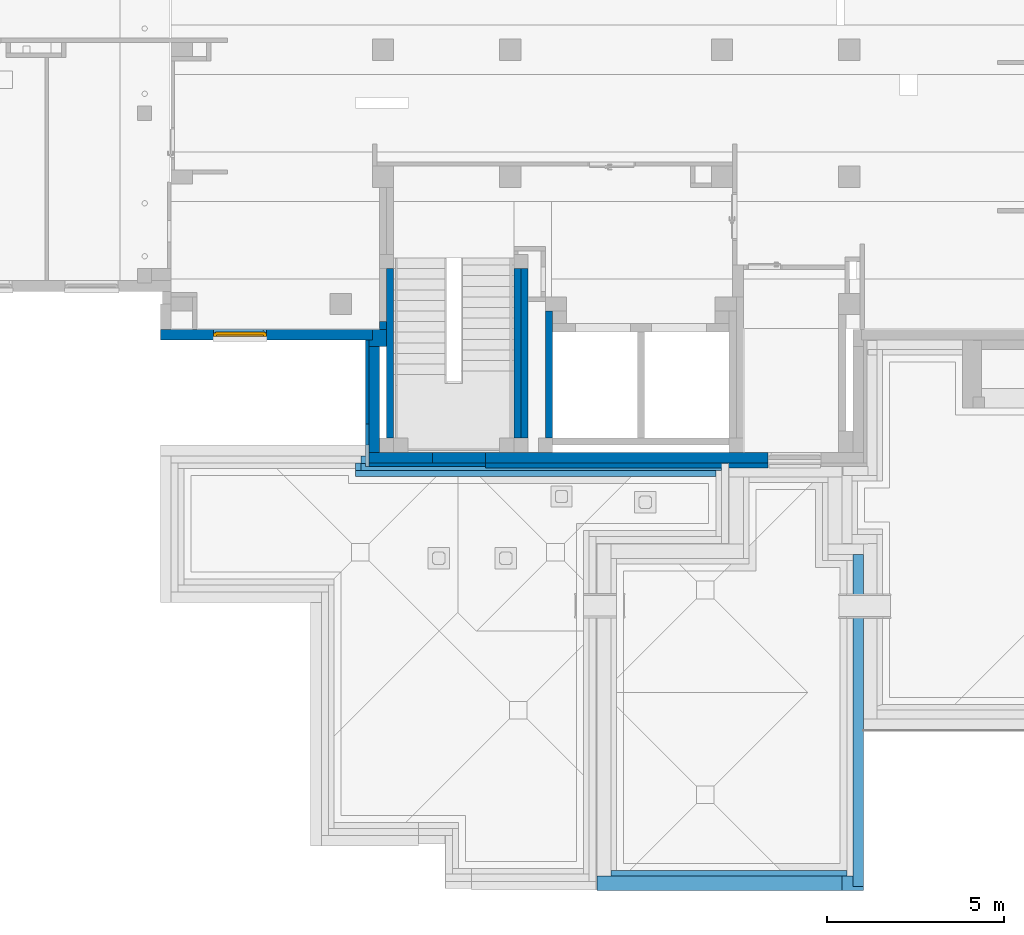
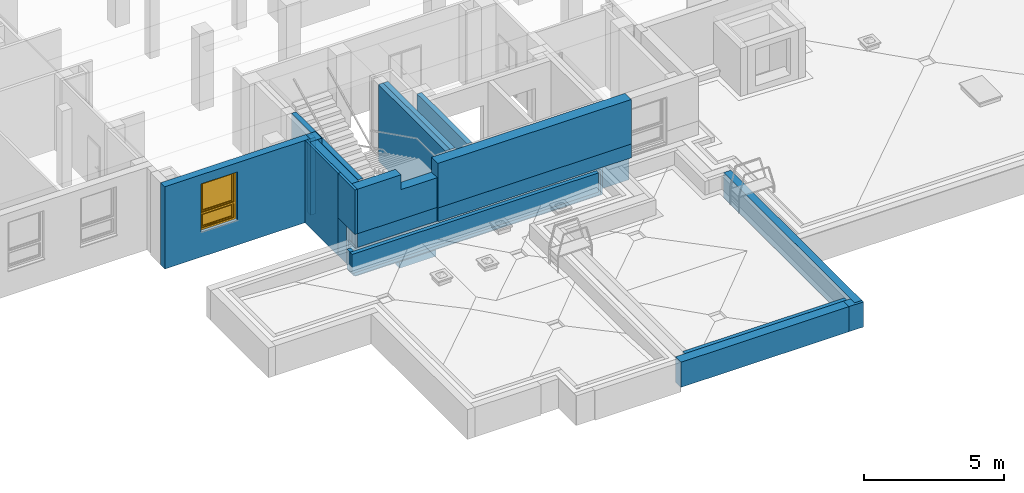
# One storey, part 20 of 50: 22 walls, 1 window, 3 openings.
"""IFC4 building model written with IfcOpenShell, lengths in metres."""

from ifc_helpers import new_model, entity, si_unit, converted_unit, derived_unit, frame, frame_2d, origin, origin_with_axes, place, context, subcontext, project, spatial, polyline, rectangle, outline, extrude, clip, bounded_halfspace, closed_shell, open_shell, surface_model, source, transform, mapped, material, layer, layer_set, layer_usage, element, fill, save


model = new_model("IFC4")

# Units and contexts
model_context = context("Model", 3, precision=1e-05, world=origin())
body_context = subcontext(model_context, "Body", "Model", "MODEL_VIEW")
ifc_project = project(units=[si_unit("LENGTHUNIT", "METRE"), si_unit("AREAUNIT", "SQUARE_METRE"), si_unit("VOLUMEUNIT", "CUBIC_METRE"), si_unit("MASSUNIT", "GRAM", prefix="KILO"), converted_unit("PLANEANGLEUNIT", "DEGREE", entity("IfcPlaneAngleMeasure", 0.0174532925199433), si_unit("PLANEANGLEUNIT", "RADIAN"), dimensions=[0, 0, 0, 0, 0, 0, 0]), derived_unit("THERMALTRANSMITTANCEUNIT", [(si_unit("POWERUNIT", "WATT"), 1), (si_unit("THERMODYNAMICTEMPERATUREUNIT", "KELVIN"), -1), (si_unit("LENGTHUNIT", "METRE"), -2)]), derived_unit("VOLUMETRICFLOWRATEUNIT", [(si_unit("LENGTHUNIT", "METRE"), 3), (converted_unit("TIMEUNIT", "hour", entity("IfcTimeMeasure", 3600.0), si_unit("TIMEUNIT", "SECOND"), dimensions=[0, 0, 1, 0, 0, 0, 0]), -1), (si_unit("LENGTHUNIT", "METRE"), -1)])], contexts=[model_context])

# Site, building, storey
site_placement = place(None, origin())
site = spatial("IfcSite", under=ifc_project, at=site_placement, Name="3. ASŘ", CompositionType="ELEMENT")
building_placement = place(site_placement, origin())
building = spatial("IfcBuilding", under=site, at=building_placement, Name="Pavilon C", CompositionType="ELEMENT")
storey_placement = place(building_placement, frame((0.0, 0.0, 3.6)))
storey = spatial("IfcBuildingStorey", under=building, at=storey_placement, Name="Půdorys 2.NP", CompositionType="ELEMENT", Elevation=3.6)

# Wall, opening, window
ifc_material_1 = material(Name="ZELEZOBETONOVÁ KCE")
ifc_layer_1 = layer(ifc_material_1, 0.3)
ifc_layer_set_1 = layer_set([ifc_layer_1])
ifc_layer_usage_1 = layer_usage(ifc_layer_set_1, "AXIS2", "POSITIVE", 0.0)
wall_1_placement = place(storey_placement, frame((24.45, -1.02, -0.1)))
wall_1 = element("IfcWall", 1, at=wall_1_placement, inside=storey, material=ifc_layer_usage_1, Name="ZELEZOBETONOVÁ KCE", context=body_context, shape_type="SweptSolid", body=[
    extrude(rectangle(XDim=6.0, YDim=0.3, at=frame_2d((3.0, 0.15), x_axis=(1.0, 0.0))), origin_with_axes(), (0.0, 0.0, 1.0), 3.6),
])
opening_1_placement = place(wall_1_placement, frame((1.5, 0.0, 1.1), z_axis=(0.0, 1.0, 0.0), x_axis=(0.0, 0.0, 1.0)))
opening_1 = element("IfcOpeningElement", 2, at=opening_1_placement, cuts=wall_1, Name="Okenní otvor", ObjectType="Opening", context=body_context, shape_type="SweptSolid", body=[
    extrude(outline(polyline([(0.0, 1.5), (2.1, 1.5), (2.1, 0.0), (0.0, 0.0), (0.0, 1.5)])), origin_with_axes(), (0.0, 0.0, 1.0), 0.3),
])
shared_shape = source(origin_with_axes(), body_context, "Body", "SurfaceModel", [
    surface_model("IfcShellBasedSurfaceModel", [(0.0, 0.182, 2.1), (0.0, 0.182, -5.63337527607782e-18), (0.08, 0.182, -5.63337527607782e-18), (0.08, 0.182, 2.1), (0.0, 0.0899999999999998, 5.63337527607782e-18), (0.0, 0.0900000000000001, 2.1), (0.08, 0.0900000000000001, 2.1), (0.08, 0.0899999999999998, 5.63337527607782e-18)], [closed_shell([[[0, 1, 2, 3]], [[4, 5, 6, 7]], [[1, 0, 5, 4]], [[2, 1, 4, 7]], [[3, 2, 7, 6]], [[0, 3, 6, 5]]], orient=[[False], [False], [False], [False], [False], [False]])]),
    surface_model("IfcShellBasedSurfaceModel", [(1.42, 0.182, 2.1), (1.42, 0.182, -5.63337527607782e-18), (1.5, 0.182, -5.63337527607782e-18), (1.5, 0.182, 2.1), (1.42, 0.0899999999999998, 5.63337527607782e-18), (1.42, 0.0900000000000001, 2.1), (1.5, 0.0900000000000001, 2.1), (1.5, 0.0899999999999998, 5.63337527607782e-18)], [closed_shell([[[0, 1, 2, 3]], [[4, 5, 6, 7]], [[1, 0, 5, 4]], [[2, 1, 4, 7]], [[3, 2, 7, 6]], [[0, 3, 6, 5]]], orient=[[False], [False], [False], [False], [False], [False]])]),
    surface_model("IfcShellBasedSurfaceModel", [(0.08, 0.182, 0.08), (0.08, 0.182, -5.63337527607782e-18), (1.42, 0.182, -5.63337527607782e-18), (1.42, 0.182, 0.08), (0.08, 0.0899999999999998, 5.63337527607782e-18), (0.08, 0.0899999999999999, 0.08), (1.42, 0.0899999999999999, 0.08), (1.42, 0.0899999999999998, 5.63337527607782e-18)], [closed_shell([[[0, 1, 2, 3]], [[4, 5, 6, 7]], [[1, 0, 5, 4]], [[2, 1, 4, 7]], [[3, 2, 7, 6]], [[0, 3, 6, 5]]], orient=[[False], [False], [False], [False], [False], [False]])]),
    surface_model("IfcShellBasedSurfaceModel", [(0.08, 0.182, 2.1), (0.08, 0.182, 2.02), (1.42, 0.182, 2.02), (1.42, 0.182, 2.1), (0.08, 0.0900000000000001, 2.02), (0.08, 0.0900000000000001, 2.1), (1.42, 0.0900000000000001, 2.1), (1.42, 0.0900000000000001, 2.02)], [closed_shell([[[0, 1, 2, 3]], [[4, 5, 6, 7]], [[1, 0, 5, 4]], [[2, 1, 4, 7]], [[3, 2, 7, 6]], [[0, 3, 6, 5]]], orient=[[False], [False], [False], [False], [False], [False]])]),
    surface_model("IfcShellBasedSurfaceModel", [(0.08, 0.182, 0.76), (0.08, 0.182, 0.68), (1.42, 0.182, 0.68), (1.42, 0.182, 0.76), (0.08, 0.0899999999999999, 0.68), (0.08, 0.0899999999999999, 0.76), (1.42, 0.0899999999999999, 0.76), (1.42, 0.0899999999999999, 0.68)], [closed_shell([[[0, 1, 2, 3]], [[4, 5, 6, 7]], [[1, 0, 5, 4]], [[2, 1, 4, 7]], [[3, 2, 7, 6]], [[0, 3, 6, 5]]], orient=[[False], [False], [False], [False], [False], [False]])]),
    surface_model("IfcShellBasedSurfaceModel", [(0.05, 0.145, 0.71), (0.05, 0.145, 0.05), (0.13, 0.145, 0.05), (0.13, 0.145, 0.71), (0.05, 0.0599999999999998, 0.05), (0.05, 0.0599999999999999, 0.71), (0.13, 0.0599999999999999, 0.71), (0.13, 0.0599999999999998, 0.05)], [closed_shell([[[0, 1, 2, 3]], [[4, 5, 6, 7]], [[1, 0, 5, 4]], [[2, 1, 4, 7]], [[3, 2, 7, 6]], [[0, 3, 6, 5]]], orient=[[False], [False], [False], [False], [False], [False]])]),
    surface_model("IfcShellBasedSurfaceModel", [(1.37, 0.145, 0.71), (1.37, 0.145, 0.05), (1.45, 0.145, 0.05), (1.45, 0.145, 0.71), (1.37, 0.0599999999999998, 0.05), (1.37, 0.0599999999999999, 0.71), (1.45, 0.0599999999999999, 0.71), (1.45, 0.0599999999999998, 0.05)], [closed_shell([[[0, 1, 2, 3]], [[4, 5, 6, 7]], [[1, 0, 5, 4]], [[2, 1, 4, 7]], [[3, 2, 7, 6]], [[0, 3, 6, 5]]], orient=[[False], [False], [False], [False], [False], [False]])]),
    surface_model("IfcShellBasedSurfaceModel", [(0.13, 0.145, 0.13), (0.13, 0.145, 0.05), (1.37, 0.145, 0.05), (1.37, 0.145, 0.13), (0.13, 0.0599999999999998, 0.05), (0.13, 0.0599999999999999, 0.13), (1.37, 0.0599999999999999, 0.13), (1.37, 0.0599999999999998, 0.05)], [closed_shell([[[0, 1, 2, 3]], [[4, 5, 6, 7]], [[1, 0, 5, 4]], [[2, 1, 4, 7]], [[3, 2, 7, 6]], [[0, 3, 6, 5]]], orient=[[False], [False], [False], [False], [False], [False]])]),
    surface_model("IfcShellBasedSurfaceModel", [(0.13, 0.145, 0.71), (0.13, 0.145, 0.63), (1.37, 0.145, 0.63), (1.37, 0.145, 0.71), (0.13, 0.0599999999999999, 0.63), (0.13, 0.0599999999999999, 0.71), (1.37, 0.0599999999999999, 0.71), (1.37, 0.0599999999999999, 0.63)], [closed_shell([[[0, 1, 2, 3]], [[4, 5, 6, 7]], [[1, 0, 5, 4]], [[2, 1, 4, 7]], [[3, 2, 7, 6]], [[0, 3, 6, 5]]], orient=[[False], [False], [False], [False], [False], [False]])]),
    surface_model("IfcShellBasedSurfaceModel", [(0.05, 0.145, 2.05), (0.05, 0.145, 0.73), (0.13, 0.145, 0.73), (0.13, 0.145, 2.05), (0.05, 0.0599999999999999, 0.73), (0.05, 0.0600000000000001, 2.05), (0.13, 0.0600000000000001, 2.05), (0.13, 0.0599999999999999, 0.73)], [closed_shell([[[0, 1, 2, 3]], [[4, 5, 6, 7]], [[1, 0, 5, 4]], [[2, 1, 4, 7]], [[3, 2, 7, 6]], [[0, 3, 6, 5]]], orient=[[False], [False], [False], [False], [False], [False]])]),
    surface_model("IfcShellBasedSurfaceModel", [(1.37, 0.145, 2.05), (1.37, 0.145, 0.73), (1.45, 0.145, 0.73), (1.45, 0.145, 2.05), (1.37, 0.0599999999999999, 0.73), (1.37, 0.0600000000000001, 2.05), (1.45, 0.0600000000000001, 2.05), (1.45, 0.0599999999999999, 0.73)], [closed_shell([[[0, 1, 2, 3]], [[4, 5, 6, 7]], [[1, 0, 5, 4]], [[2, 1, 4, 7]], [[3, 2, 7, 6]], [[0, 3, 6, 5]]], orient=[[False], [False], [False], [False], [False], [False]])]),
    surface_model("IfcShellBasedSurfaceModel", [(0.13, 0.145, 0.81), (0.13, 0.145, 0.73), (1.37, 0.145, 0.73), (1.37, 0.145, 0.81), (0.13, 0.0599999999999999, 0.73), (0.13, 0.0599999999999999, 0.81), (1.37, 0.0599999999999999, 0.81), (1.37, 0.0599999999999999, 0.73)], [closed_shell([[[0, 1, 2, 3]], [[4, 5, 6, 7]], [[1, 0, 5, 4]], [[2, 1, 4, 7]], [[3, 2, 7, 6]], [[0, 3, 6, 5]]], orient=[[False], [False], [False], [False], [False], [False]])]),
    surface_model("IfcShellBasedSurfaceModel", [(0.13, 0.145, 2.05), (0.13, 0.145, 1.97), (1.37, 0.145, 1.97), (1.37, 0.145, 2.05), (0.13, 0.0600000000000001, 1.97), (0.13, 0.0600000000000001, 2.05), (1.37, 0.0600000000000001, 2.05), (1.37, 0.0600000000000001, 1.97)], [closed_shell([[[0, 1, 2, 3]], [[4, 5, 6, 7]], [[1, 0, 5, 4]], [[2, 1, 4, 7]], [[3, 2, 7, 6]], [[0, 3, 6, 5]]], orient=[[False], [False], [False], [False], [False], [False]])]),
    surface_model("IfcShellBasedSurfaceModel", [(0.0775, 0.06, 1.41), (0.0775, 0.06, 1.37), (0.1025, 0.06, 1.37), (0.1025, 0.06, 1.41), (0.0775, 0.05, 1.37), (0.0775, 0.05, 1.41), (0.1025, 0.05, 1.41), (0.1025, 0.05, 1.37)], [closed_shell([[[0, 1, 2, 3]], [[4, 5, 6, 7]], [[1, 0, 5, 4]], [[2, 1, 4, 7]], [[3, 2, 7, 6]], [[0, 3, 6, 5]]], orient=[[False], [False], [False], [False], [False], [False]])]),
    surface_model("IfcShellBasedSurfaceModel", [(0.1, 0.05, 1.39), (0.0986602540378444, 0.05, 1.395), (0.095, 0.05, 1.39866025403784), (0.09, 0.05, 1.4), (0.085, 0.05, 1.39866025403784), (0.0813397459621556, 0.05, 1.395), (0.08, 0.05, 1.39), (0.0813397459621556, 0.05, 1.385), (0.085, 0.05, 1.38133974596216), (0.09, 0.05, 1.38), (0.095, 0.05, 1.38133974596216), (0.0986602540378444, 0.05, 1.385), (0.1, 0.01, 1.39), (0.0986602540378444, 0.00500000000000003, 1.395), (0.095, 0.00133974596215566, 1.39866025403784), (0.09, 2.8421709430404e-17, 1.4), (0.085, 0.00133974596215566, 1.39866025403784), (0.0813397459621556, 0.00500000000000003, 1.395), (0.08, 0.01, 1.39), (0.0813397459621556, 0.015, 1.385), (0.085, 0.0186602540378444, 1.38133974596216), (0.09, 0.02, 1.38), (0.095, 0.0186602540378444, 1.38133974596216), (0.0986602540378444, 0.015, 1.385), (0.1, 0.01, 1.275), (0.0986602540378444, 0.005, 1.275), (0.095, 0.00133974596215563, 1.275), (0.09, 0.0, 1.275), (0.085, 0.00133974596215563, 1.275), (0.0813397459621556, 0.005, 1.275), (0.08, 0.01, 1.275), (0.0813397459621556, 0.015, 1.275), (0.085, 0.0186602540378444, 1.275), (0.09, 0.02, 1.275), (0.095, 0.0186602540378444, 1.275), (0.0986602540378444, 0.015, 1.275)], [open_shell([[[0, 1, 2, 3, 4, 5, 6, 7, 8, 9, 10, 11]], [[0, 12, 13, 1]], [[1, 13, 14, 2]], [[2, 14, 15, 3]], [[3, 15, 16, 4]], [[4, 16, 17, 5]], [[5, 17, 18, 6]], [[6, 18, 19, 7]], [[7, 19, 20, 8]], [[8, 20, 21, 9]], [[9, 21, 22, 10]], [[10, 22, 23, 11]], [[11, 23, 12, 0]], [[12, 24, 25, 13]], [[13, 25, 26, 14]], [[14, 26, 27, 15]], [[15, 27, 28, 16]], [[16, 28, 29, 17]], [[17, 29, 30, 18]], [[18, 30, 31, 19]], [[19, 31, 32, 20]], [[20, 32, 33, 21]], [[21, 33, 34, 22]], [[22, 34, 35, 23]], [[23, 35, 24, 12]]], orient=[[False], [False], [False], [False], [False], [False], [False], [False], [False], [False], [False], [False], [False], [False], [False], [False], [False], [False], [False], [False], [False], [False], [False], [False], [False]])]),
    surface_model("IfcShellBasedSurfaceModel", [(0.13, 0.1025, 0.13), (1.37, 0.1025, 0.13), (1.37, 0.1025, 0.63), (0.13, 0.1025, 0.63)], [open_shell([[[0, 1, 2, 3]]], orient=[[False]])]),
    surface_model("IfcShellBasedSurfaceModel", [(0.13, 0.1025, 0.81), (1.37, 0.1025, 0.81), (1.37, 0.1025, 1.97), (0.13, 0.1025, 1.97)], [open_shell([[[0, 1, 2, 3]]], orient=[[False]])]),
])
window_placement = place(opening_1_placement, frame((0.0, 1.5, 0.282), z_axis=(1.0, 0.0, 0.0), x_axis=(0.0, -1.0, 1.22464679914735e-16)))
window = element("IfcWindow", 3, at=window_placement, inside=storey, Name="O06", OverallHeight=2.1, OverallWidth=1.5, PartitioningType="USERDEFINED", PredefinedType="WINDOW", context=body_context, shape_type="MappedRepresentation", body=[
    mapped(shared_shape, transform((0.0, 0.0, 0.0), x_axis=(1.0, 0.0, 0.0), y_axis=(0.0, 1.0, 0.0), z_axis=(0.0, 0.0, 1.0), scale=1.0)),
])
fill(opening_1, window)

# Walls
ifc_material_2 = material(Name="ZELEZOBETONOVÁ KCE")
ifc_layer_2 = layer(ifc_material_2, 0.2)
ifc_layer_set_2 = layer_set([ifc_layer_2])
ifc_layer_usage_2 = layer_usage(ifc_layer_set_2, "AXIS2", "POSITIVE", 0.0)
wall_2_placement = place(storey_placement, frame((31.05, -3.79999999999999, -0.1), z_axis=(0.0, 0.0, 1.0), x_axis=(0.0, 1.0, 0.0)))
element("IfcWall", 4, at=wall_2_placement, inside=storey, material=ifc_layer_usage_2, Name="ZELEZOBETONOVÁ KCE", context=body_context, shape_type="SweptSolid", body=[
    extrude(rectangle(XDim=4.79999999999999, YDim=0.2, at=frame_2d((2.4, 0.1), x_axis=(1.0, 0.0))), origin_with_axes(), (0.0, 0.0, 1.0), 3.35),
])
ifc_material_3 = material(Name="ZDIVO Z CDm")
ifc_layer_3 = layer(ifc_material_3, 0.2)
ifc_layer_set_3 = layer_set([ifc_layer_3])
ifc_layer_usage_3 = layer_usage(ifc_layer_set_3, "AXIS2", "POSITIVE", 0.0)
wall_3_placement = place(storey_placement, frame((30.65, -0.499999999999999, -0.1), z_axis=(0.0, 0.0, 1.0), x_axis=(0.0, -1.0, 0.0)))
element("IfcWall", 5, at=wall_3_placement, inside=storey, material=ifc_layer_usage_3, Name="ZDIVO Z CDm", context=body_context, shape_type="SweptSolid", body=[
    extrude(rectangle(XDim=0.220000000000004, YDim=0.2, at=frame_2d((0.110000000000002, 0.1), x_axis=(1.0, 0.0))), origin_with_axes(), (0.0, 0.0, 1.0), 3.35),
])
ifc_material_4 = material(Name="ZELEZOBETONOVÁ KCE")
ifc_layer_4 = layer(ifc_material_4, 0.2)
ifc_layer_set_4 = layer_set([ifc_layer_4])
ifc_layer_usage_4 = layer_usage(ifc_layer_set_4, "AXIS2", "POSITIVE", 0.0)
wall_4_placement = place(storey_placement, frame((34.45, 1.0, -0.1), z_axis=(0.0, 0.0, 1.0), x_axis=(0.0, -1.0, 0.0)))
element("IfcWall", 6, at=wall_4_placement, inside=storey, material=ifc_layer_usage_4, Name="ZELEZOBETONOVÁ KCE", context=body_context, shape_type="SweptSolid", body=[
    extrude(rectangle(XDim=4.8, YDim=0.2, at=frame_2d((2.4, 0.1), x_axis=(1.0, 0.0))), origin_with_axes(), (0.0, 0.0, 1.0), 3.35),
])
ifc_material_5 = material(Name="ZELEZOBETONOVÁ KCE")
ifc_layer_5 = layer(ifc_material_5, 0.2)
ifc_layer_set_5 = layer_set([ifc_layer_5])
ifc_layer_usage_5 = layer_usage(ifc_layer_set_5, "AXIS2", "POSITIVE", 0.0)
wall_5_placement = place(storey_placement, frame((34.65, 0.999999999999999, -0.1), z_axis=(0.0, 0.0, 1.0), x_axis=(0.0, -1.0, 0.0)))
element("IfcWall", 7, at=wall_5_placement, inside=storey, material=ifc_layer_usage_5, Name="ZELEZOBETONOVÁ KCE", context=body_context, shape_type="SweptSolid", body=[
    extrude(rectangle(XDim=4.8, YDim=0.2, at=frame_2d((2.4, 0.1), x_axis=(1.0, 0.0))), origin_with_axes(), (0.0, 0.0, 1.0), 3.35),
])
ifc_material_6 = material(Name="ZELEZOBETONOVÁ KCE")
ifc_layer_6 = layer(ifc_material_6, 0.2)
ifc_layer_set_6 = layer_set([ifc_layer_6])
ifc_layer_usage_6 = layer_usage(ifc_layer_set_6, "AXIS2", "POSITIVE", 0.0)
wall_6_placement = place(storey_placement, frame((35.55, -3.80000000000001, -0.1), z_axis=(0.0, 0.0, 1.0), x_axis=(0.0, 1.0, 0.0)))
element("IfcWall", 8, at=wall_6_placement, inside=storey, material=ifc_layer_usage_6, Name="ZELEZOBETONOVÁ KCE", context=body_context, shape_type="SweptSolid", body=[
    extrude(rectangle(XDim=3.60000000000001, YDim=0.2, at=frame_2d((1.8, 0.1), x_axis=(1.0, 0.0))), origin_with_axes(), (0.0, 0.0, 1.0), 3.35),
])
ifc_material_7 = material(Name="ZDIVO Z CDm")
ifc_layer_7 = layer(ifc_material_7, 0.48)
ifc_layer_set_7 = layer_set([ifc_layer_7])
ifc_layer_usage_7 = layer_usage(ifc_layer_set_7, "AXIS2", "POSITIVE", 0.0)
wall_7_placement = place(storey_placement, frame((30.35, -1.2, -0.1)))
element("IfcWall", 9, at=wall_7_placement, inside=storey, material=ifc_layer_usage_7, Name="ZDIVO Z CDm", context=body_context, shape_type="SweptSolid", body=[
    extrude(outline(polyline([(0.0, 0.0), (0.499999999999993, 0.0), (0.499999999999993, 0.48), (0.0999999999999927, 0.48), (0.0999999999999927, 0.18), (0.0, 0.18), (0.0, 0.0)])), origin_with_axes(), (0.0, 0.0, 1.0), 3.6),
])
ifc_material_8 = material(Name="ZELEZOBETONOVÁ KCE")
ifc_layer_8 = layer(ifc_material_8, 0.3)
ifc_layer_set_8 = layer_set([ifc_layer_8])
ifc_layer_usage_8 = layer_usage(ifc_layer_set_8, "AXIS2", "POSITIVE", 0.0)
wall_8_placement = place(storey_placement, frame((30.35, -1.2, -0.1), z_axis=(0.0, 0.0, 1.0), x_axis=(0.0, -1.0, 0.0)))
element("IfcWall", 10, at=wall_8_placement, inside=storey, material=ifc_layer_usage_8, Name="ZELEZOBETONOVÁ KCE", context=body_context, shape_type="SweptSolid", body=[
    extrude(rectangle(XDim=3.0, YDim=0.3, at=frame_2d((1.5, 0.15), x_axis=(1.0, 0.0))), origin_with_axes(), (0.0, 0.0, 1.0), 3.6),
])
ifc_material_9 = material(Name="EPS")
ifc_layer_9 = layer(ifc_material_9, 0.1)
ifc_layer_set_9 = layer_set([ifc_layer_9])
ifc_layer_usage_9 = layer_usage(ifc_layer_set_9, "AXIS2", "POSITIVE", 0.0)
wall_9_placement = place(storey_placement, frame((30.35, -3.4, -0.1), z_axis=(0.0, 0.0, 1.0), x_axis=(0.0, 1.0, 0.0)))
element("IfcWall", 11, at=wall_9_placement, inside=storey, material=ifc_layer_usage_9, Name="EPS", context=body_context, shape_type="SweptSolid", body=[
    extrude(rectangle(XDim=2.38, YDim=0.1, at=frame_2d((1.19, 0.05), x_axis=(1.0, 0.0))), origin_with_axes(), (0.0, 0.0, 1.0), 3.6),
])
ifc_material_10 = material(Name="EPS")
ifc_layer_10 = layer(ifc_material_10, 0.15)
ifc_material_11 = material(Name="ZELEZOBETONOVÁ KCE")
ifc_layer_11 = layer(ifc_material_11, 0.3)
ifc_layer_set_10 = layer_set([ifc_layer_10, ifc_layer_11])
ifc_layer_usage_10 = layer_usage(ifc_layer_set_10, "AXIS2", "POSITIVE", -0.15)
wall_10_placement = place(storey_placement, frame((33.65, -4.65, -0.1)))
element("IfcWall", 12, at=wall_10_placement, inside=storey, material=ifc_layer_usage_10, Name="ZELEZOBETONOVÁ KCE", context=body_context, shape_type="Clipping", body=[
    clip(extrude(rectangle(XDim=8.0, YDim=0.45, at=frame_2d((4.0, 0.225), x_axis=(1.0, 0.0))), origin_with_axes(), (0.0, 0.0, 1.0), 3.6), bounded_halfspace(frame((4.0, 0.075, 1.65), z_axis=(0.0, 0.0, 1.0), x_axis=(0.0, -1.0, 0.0)), True, origin_with_axes(), polyline([(0.0, 0.15), (0.0, 0.0), (8.0, 0.0), (8.0, 0.15), (0.0, 0.15)]))),
])
ifc_material_12 = material(Name="STÁVAJÍC KCE")
ifc_layer_12 = layer(ifc_material_12, 0.4)
ifc_layer_set_11 = layer_set([ifc_layer_12])
ifc_layer_usage_11 = layer_usage(ifc_layer_set_11, "AXIS2", "POSITIVE", 0.0)
wall_11_placement = place(storey_placement, frame((36.8, -16.6, -0.15)))
element("IfcWall", 13, at=wall_11_placement, inside=storey, material=ifc_layer_usage_11, Name="STÁVAJÍCÍ KCE", context=body_context, shape_type="SweptSolid", body=[
    extrude(rectangle(XDim=6.95, YDim=0.4, at=frame_2d((3.475, 0.2), x_axis=(1.0, 0.0))), origin_with_axes(), (0.0, 0.0, 1.0), 1.1),
])

# Wall, openings
ifc_material_13 = material(Name="EPS")
ifc_layer_13 = layer(ifc_material_13, 0.1)
ifc_material_14 = material(Name="ZELEZOBETONOVÁ KCE")
ifc_layer_14 = layer(ifc_material_14, 0.3)
ifc_layer_set_12 = layer_set([ifc_layer_13, ifc_layer_14])
ifc_layer_usage_12 = layer_usage(ifc_layer_set_12, "AXIS2", "POSITIVE", -0.1)
wall_12_placement = place(storey_placement, frame((30.35, -4.6, -0.1)))
wall_12 = element("IfcWall", 14, at=wall_12_placement, inside=storey, material=ifc_layer_usage_12, Name="ZELEZOBETONOVÁ KCE", context=body_context, shape_type="Clipping", body=[
    clip(extrude(rectangle(XDim=3.3, YDim=0.4, at=frame_2d((1.65, 0.2), x_axis=(1.0, 0.0))), origin_with_axes(), (0.0, 0.0, 1.0), 3.6), bounded_halfspace(frame((1.65, 0.05, 1.65), z_axis=(0.0, 0.0, 1.0), x_axis=(0.0, -1.0, 0.0)), True, origin_with_axes(), polyline([(0.0, 0.1), (0.0, 0.0), (3.3, 0.0), (3.3, 0.1), (0.0, 0.1)]))),
])
opening_2_placement = place(wall_12_placement, frame((1.8, 0.0, 2.95), z_axis=(0.0, 1.0, 0.0), x_axis=(0.0, 0.0, 1.0)))
element("IfcOpeningElement", 15, at=opening_2_placement, cuts=wall_12, Name="Okenní otvor", ObjectType="Opening", context=body_context, shape_type="SweptSolid", body=[
    extrude(outline(polyline([(0.0, 1.5), (2.0, 1.5), (2.0, 0.0), (0.0, 0.0), (0.0, 1.5)])), origin_with_axes(), (0.0, 0.0, 1.0), 0.1),
    extrude(outline(polyline([(0.0, 1.5), (2.0, 1.5), (2.0, 0.0), (0.0, 0.0), (0.0, 1.5)])), frame((0.0, 0.0, 0.1), z_axis=(0.0, 0.0, 1.0), x_axis=(1.0, 0.0, 0.0)), (0.0, 0.0, 1.0), 0.3),
])
opening_3_placement = place(wall_12_placement, frame((1.8, 0.0, -0.55), z_axis=(0.0, 1.0, 0.0), x_axis=(0.0, 0.0, 1.0)))
element("IfcOpeningElement", 16, at=opening_3_placement, cuts=wall_12, Name="Okenní otvor", ObjectType="Opening", context=body_context, shape_type="SweptSolid", body=[
    extrude(outline(polyline([(0.0, 1.5), (2.0, 1.5), (2.0, 0.0), (0.0, 0.0), (0.0, 1.5)])), origin_with_axes(), (0.0, 0.0, 1.0), 0.1),
    extrude(outline(polyline([(0.0, 1.5), (2.0, 1.5), (2.0, 0.0), (0.0, 0.0), (0.0, 1.5)])), frame((0.0, 0.0, 0.1), z_axis=(0.0, 0.0, 1.0), x_axis=(1.0, 0.0, 0.0)), (0.0, 0.0, 1.0), 0.3),
])

# Walls
ifc_material_15 = material(Name="EPS")
ifc_layer_15 = layer(ifc_material_15, 0.1)
ifc_layer_set_13 = layer_set([ifc_layer_15])
ifc_layer_usage_13 = layer_usage(ifc_layer_set_13, "AXIS2", "POSITIVE", 0.0)
wall_13_placement = place(storey_placement, frame((30.35, -4.6, 1.55), z_axis=(0.0, 0.0, 1.0), x_axis=(0.0, 1.0, 0.0)))
element("IfcWall", 17, at=wall_13_placement, inside=storey, material=ifc_layer_usage_13, Name="EPS", context=body_context, shape_type="SweptSolid", body=[
    extrude(rectangle(XDim=1.2, YDim=0.1, at=frame_2d((0.6, 0.05), x_axis=(1.0, 0.0))), origin_with_axes(), (0.0, 0.0, 1.0), 1.95),
])
ifc_material_16 = material(Name="YTONG 300")
ifc_layer_16 = layer(ifc_material_16, 0.3)
ifc_layer_set_14 = layer_set([ifc_layer_16])
ifc_layer_usage_14 = layer_usage(ifc_layer_set_14, "AXIS2", "POSITIVE", 0.0)
wall_14_placement = place(storey_placement, frame((44.35, -16.5, -0.15), z_axis=(0.0, 0.0, 1.0), x_axis=(0.0, 1.0, 0.0)))
element("IfcWall", 18, at=wall_14_placement, inside=storey, material=ifc_layer_usage_14, Name="YTONG 300", context=body_context, shape_type="SweptSolid", body=[
    extrude(rectangle(XDim=9.40000000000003, YDim=0.3, at=frame_2d((4.70000000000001, 0.15), x_axis=(1.0, 0.0))), origin_with_axes(), (0.0, 0.0, 1.0), 1.1),
])
ifc_material_17 = material(Name="YTONG 300")
ifc_layer_17 = layer(ifc_material_17, 0.3)
ifc_layer_set_15 = layer_set([ifc_layer_17])
ifc_layer_usage_15 = layer_usage(ifc_layer_set_15, "AXIS2", "POSITIVE", 0.0)
wall_15_placement = place(storey_placement, frame((32.15, -4.5, -0.65)))
element("IfcWall", 19, at=wall_15_placement, inside=storey, material=ifc_layer_usage_15, Name="YTONG 300", context=body_context, shape_type="SweptSolid", body=[
    extrude(rectangle(XDim=1.5, YDim=0.3, at=frame_2d((0.75, 0.15), x_axis=(1.0, 0.0))), origin_with_axes(), (0.0, 0.0, 1.0), 2.0),
])
ifc_material_18 = material(Name="EPS")
ifc_layer_18 = layer(ifc_material_18, 0.0200000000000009)
ifc_material_19 = material(Name="ZELEZOBETONOVÁ KCE")
ifc_layer_19 = layer(ifc_material_19, 0.2)
ifc_material_20 = material(Name="MINERÁLNÍ VATA")
ifc_layer_20 = layer(ifc_material_20, 0.16)
ifc_layer_set_16 = layer_set([ifc_layer_18, ifc_layer_19, ifc_layer_20])
ifc_layer_usage_16 = layer_usage(ifc_layer_set_16, "AXIS2", "POSITIVE", -0.02)
wall_16_placement = place(storey_placement, frame((40.53, -4.5, -0.35), z_axis=(0.0, 0.0, 1.0), x_axis=(-1.0, 8.916614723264e-17, 0.0)))
element("IfcWall", 20, at=wall_16_placement, inside=storey, material=ifc_layer_usage_16, Name="MINERÁLNÍ VATA", context=body_context, shape_type="Clipping", body=[
    clip(clip(clip(extrude(outline(polyline([(-10.56, -0.380000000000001), (-0.36, -0.380000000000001), (-0.36, -0.360000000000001), (-0.16, -0.360000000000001), (-0.16, -0.160000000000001), (1.42665835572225e-17, -0.160000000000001), (8.10961384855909e-32, -9.09494701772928e-16), (-10.2, -9.09494701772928e-16), (-10.2, -0.160000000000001), (-10.36, -0.160000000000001), (-10.36, -0.360000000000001), (-10.56, -0.360000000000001), (-10.56, -0.380000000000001)])), frame((10.56, 0.380000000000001, 0.0), z_axis=(0.0, 0.0, 1.0), x_axis=(1.0, 0.0, 0.0)), (0.0, 0.0, 1.0), 1.3), bounded_halfspace(frame((6.28000000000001, 0.100000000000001, 0.2), z_axis=(0.0, 0.0, 1.0), x_axis=(8.916614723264e-17, -1.0, 0.0)), True, origin_with_axes(), polyline([(0.2, 0.22), (0.2, 0.02), (10.2, 0.02), (10.4, 0.02), (10.4, 0.22), (0.2, 0.22)]))), bounded_halfspace(frame((6.44800000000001, 0.284000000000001, 0.460000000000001), z_axis=(0.0, 0.0, 1.0), x_axis=(8.916614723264e-17, -1.0, 0.0)), True, origin_with_axes(), polyline([(0.36, 0.38), (0.36, 0.22), (10.4, 0.22), (10.56, 0.22), (10.56, 0.38), (0.36, 0.38)]))), bounded_halfspace(frame((5.29333333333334, 0.12, 1.2), z_axis=(0.0, 0.0, -1.0), x_axis=(1.0, 8.916614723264e-17, 0.0)), True, origin_with_axes(), polyline([(10.2, 0.02), (10.4, 0.02), (10.4, 0.22), (0.36, 0.22), (0.2, 0.22), (0.2, 0.02), (10.2, 0.02)]))),
])
ifc_material_21 = material(Name="EPS")
ifc_layer_21 = layer(ifc_material_21, 0.02)
ifc_material_22 = material(Name="ZELEZOBETONOVÁ KCE")
ifc_layer_22 = layer(ifc_material_22, 0.2)
ifc_material_23 = material(Name="MINERÁLNÍ VATA")
ifc_layer_23 = layer(ifc_material_23, 0.16)
ifc_layer_set_17 = layer_set([ifc_layer_21, ifc_layer_22, ifc_layer_23])
ifc_layer_usage_17 = layer_usage(ifc_layer_set_17, "AXIS2", "POSITIVE", -0.02)
wall_17_placement = place(storey_placement, frame((30.35, -4.5, -0.35), z_axis=(0.0, 0.0, 1.0), x_axis=(0.0, 1.0, 0.0)))
element("IfcWall", 21, at=wall_17_placement, inside=storey, material=ifc_layer_usage_17, Name="MINERÁLNÍ VATA", context=body_context, shape_type="Clipping", body=[
    clip(clip(clip(extrude(outline(polyline([(0.22, -0.38), (0.72, -0.38), (0.72, -0.36), (0.42, -0.36), (0.42, -0.16), (0.22, -0.16), (0.22, 0.0), (0.0, 0.0), (0.0, -0.16), (0.2, -0.16), (0.2, -0.36), (0.22, -0.36), (0.22, -0.38)])), frame((-0.22, 0.38, 0.0), z_axis=(0.0, 0.0, 1.0), x_axis=(1.0, 0.0, 0.0)), (0.0, 0.0, 1.0), 1.3), bounded_halfspace(frame((0.072, 0.100000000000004, 0.2), z_axis=(0.0, 0.0, 1.0), x_axis=(0.0, -1.0, 0.0)), True, origin_with_axes(), polyline([(-0.02, 0.220000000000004), (-0.02, 0.0200000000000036), (0.0, 0.0200000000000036), (0.2, 0.0200000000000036), (0.2, 0.220000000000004), (-0.02, 0.220000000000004)]))), bounded_halfspace(frame((-0.092, 0.283999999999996, 0.460000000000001), z_axis=(0.0, 0.0, 1.0), x_axis=(0.0, -1.0, 0.0)), True, origin_with_axes(), polyline([(-0.22, 0.38), (-0.22, 0.22), (-0.02, 0.220000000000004), (0.0, 0.22), (0.0, 0.38), (-0.22, 0.38)]))), bounded_halfspace(frame((0.06, 0.120000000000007, 1.2), z_axis=(0.0, 0.0, -1.0), x_axis=(1.0, 0.0, 0.0)), True, origin_with_axes(), polyline([(0.0, 0.0200000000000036), (0.2, 0.0200000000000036), (0.2, 0.220000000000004), (0.0, 0.220000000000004), (-0.02, 0.220000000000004), (-0.02, 0.0200000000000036), (0.0, 0.0200000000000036)]))),
])
ifc_material_24 = material(Name="EPS")
ifc_layer_24 = layer(ifc_material_24, 0.1)
ifc_material_25 = material(Name="YTONG 300")
ifc_layer_25 = layer(ifc_material_25, 0.3)
ifc_layer_set_18 = layer_set([ifc_layer_24, ifc_layer_25])
ifc_layer_usage_18 = layer_usage(ifc_layer_set_18, "AXIS2", "POSITIVE", -0.1)
wall_18_placement = place(storey_placement, frame((43.75, -16.6, -0.15)))
element("IfcWall", 22, at=wall_18_placement, inside=storey, material=ifc_layer_usage_18, Name="YTONG 300", context=body_context, shape_type="SweptSolid", body=[
    extrude(outline(polyline([(0.0, 0.0), (0.6, 0.0), (0.6, 0.1), (0.3, 0.1), (0.3, 0.4), (0.0, 0.4), (0.0, 0.0)])), origin_with_axes(), (0.0, 0.0, 1.0), 1.1),
])
ifc_material_26 = material(Name="MINERÁLNÍ VATA")
ifc_layer_26 = layer(ifc_material_26, 0.16)
ifc_layer_set_19 = layer_set([ifc_layer_26])
ifc_layer_usage_19 = layer_usage(ifc_layer_set_19, "AXIS2", "POSITIVE", 0.0)
wall_19_placement = place(storey_placement, frame((37.2, -16.2, 0.11)))
element("IfcWall", 23, at=wall_19_placement, inside=storey, material=ifc_layer_usage_19, Name="MINERÁLNÍ VATA", context=body_context, shape_type="SweptSolid", body=[
    extrude(rectangle(XDim=6.69, YDim=0.16, at=frame_2d((3.345, 0.08), x_axis=(1.0, 0.0))), origin_with_axes(), (0.0, 0.0, 1.0), 0.84),
])
ifc_material_27 = material(Name="EPS")
ifc_layer_27 = layer(ifc_material_27, 0.1)
ifc_layer_set_20 = layer_set([ifc_layer_27])
ifc_layer_usage_20 = layer_usage(ifc_layer_set_20, "AXIS2", "POSITIVE", 0.0)
wall_20_placement = place(storey_placement, frame((30.25, -3.4, -0.1), z_axis=(0.0, 0.0, 1.0), x_axis=(0.0, -1.0, 0.0)))
element("IfcWall", 24, at=wall_20_placement, inside=storey, material=ifc_layer_usage_20, Name="EPS", context=body_context, shape_type="SweptSolid", body=[
    extrude(rectangle(XDim=0.6, YDim=0.1, at=frame_2d((0.3, 0.05), x_axis=(1.0, 0.0))), origin_with_axes(), (0.0, 0.0, 1.0), 1.65),
])
ifc_material_28 = material(Name="EPS")
ifc_layer_28 = layer(ifc_material_28, 0.1)
ifc_layer_set_21 = layer_set([ifc_layer_28])
ifc_layer_usage_21 = layer_usage(ifc_layer_set_21, "AXIS2", "POSITIVE", 0.0)
wall_21_placement = place(storey_placement, frame((30.35, -4.6, 0.95)))
element("IfcWall", 25, at=wall_21_placement, inside=storey, material=ifc_layer_usage_21, Name="EPS", context=body_context, shape_type="SweptSolid", body=[
    extrude(rectangle(XDim=3.3, YDim=0.1, at=frame_2d((1.65, 0.05), x_axis=(1.0, 0.0))), origin_with_axes(), (0.0, 0.0, 1.0), 0.6),
])
ifc_material_29 = material(Name="EPS")
ifc_layer_29 = layer(ifc_material_29, 0.15)
ifc_layer_set_22 = layer_set([ifc_layer_29])
ifc_layer_usage_22 = layer_usage(ifc_layer_set_22, "AXIS2", "POSITIVE", 0.0)
wall_22_placement = place(storey_placement, frame((33.65, -4.65, 0.95)))
element("IfcWall", 26, at=wall_22_placement, inside=storey, material=ifc_layer_usage_22, Name="EPS", context=body_context, shape_type="SweptSolid", body=[
    extrude(rectangle(XDim=8.0, YDim=0.15, at=frame_2d((4.0, 0.075), x_axis=(1.0, 0.0))), origin_with_axes(), (0.0, 0.0, 1.0), 0.6),
])

save(model, "model.ifc")
